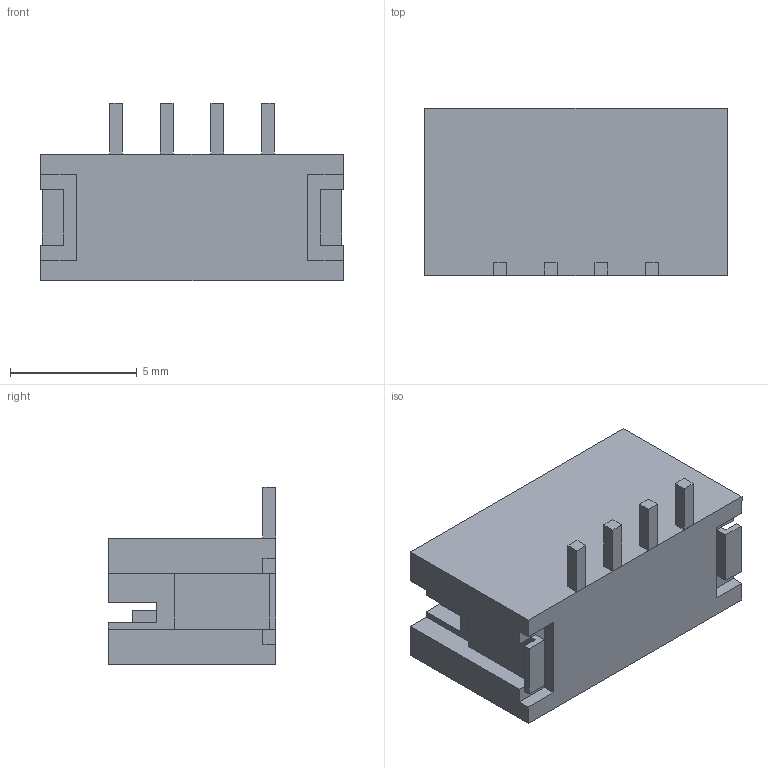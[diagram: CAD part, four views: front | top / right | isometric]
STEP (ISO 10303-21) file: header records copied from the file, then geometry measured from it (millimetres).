
FILE_DESCRIPTION (( 'STEP AP214' ), '1' );
FILE_NAME ('B4B-PH-SM4-TB.STEP', '2022-05-24T14:34:16', ( '' ), ( '' ), 'SwSTEP 2.0', 'SolidWorks 2020', '' );
FILE_SCHEMA (( 'AUTOMOTIVE_DESIGN' ));
Length unit declared in the file: millimetre
Products named in the file (5): bODY; B4B-PH-SM4-TB; JST Logo; Pins; New Marking
Assembly tree (4 placements, depth 2):
  B4B-PH-SM4-TB
    bODY
    Pins
    New Marking
    JST Logo
Bounding box: 11.95 x 6.6 x 7 mm (x, y, z)
Volume: 223.5 mm3; surface area: 543.3 mm2
Topology: 15 solids, 15 shells, 162 faces, 394 edges, 262 vertices
Faces by surface type: plane 131, bspline 31
Entity records: 5127 total; most frequent: CARTESIAN_POINT 1234, ORIENTED_EDGE 788, DIRECTION 606, EDGE_CURVE 394, LINE 330, VECTOR 330, VERTEX_POINT 262, EDGE_LOOP 162
